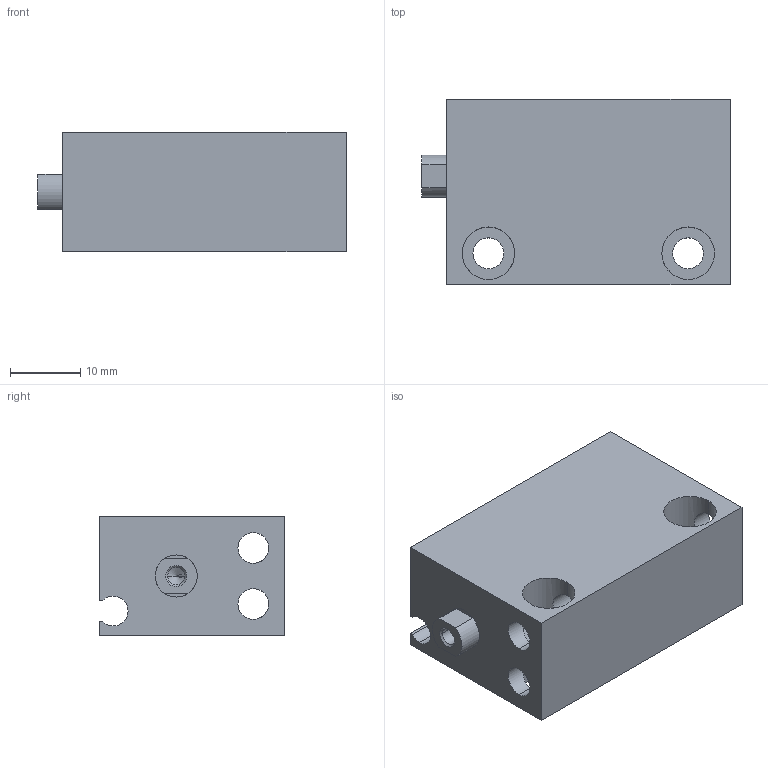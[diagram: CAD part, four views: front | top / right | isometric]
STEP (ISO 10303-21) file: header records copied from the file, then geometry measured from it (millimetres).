
FILE_DESCRIPTION (( 'STEP AP203' ), '1' );
FILE_NAME ('CLJB12-25.STEP', '2020-07-30T18:50:11', ( '' ), ( '' ), 'SwSTEP 2.0', 'SolidWorks 2019', '' );
FILE_SCHEMA (( 'CONFIG_CONTROL_DESIGN' ));
Length unit declared in the file: millimetre
Products named in the file (1): CLJB12-25
Bounding box: 44 x 26.5 x 17 mm (x, y, z)
Volume: 13442.9 mm3; surface area: 8344.8 mm2
Topology: 2 solids, 2 shells, 75 faces, 188 edges, 113 vertices
Faces by surface type: cylinder 41, plane 22, cone 12
Entity records: 3119 total; most frequent: CARTESIAN_POINT 1223, DIRECTION 394, ORIENTED_EDGE 364, EDGE_CURVE 182, AXIS2_PLACEMENT_3D 152, VERTEX_POINT 113, EDGE_LOOP 93, LINE 90
